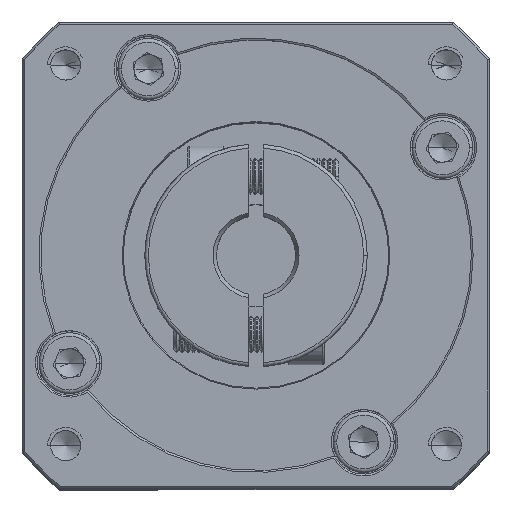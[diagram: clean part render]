
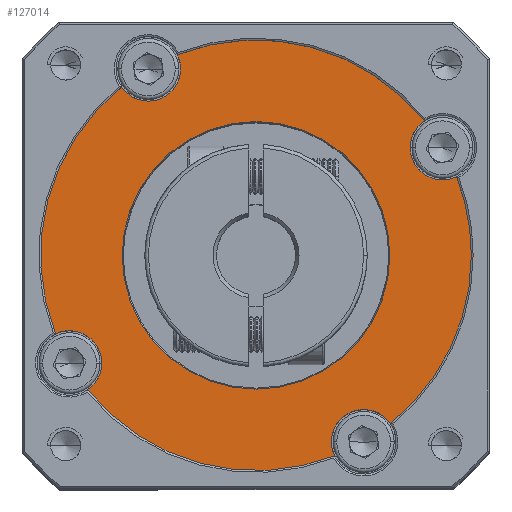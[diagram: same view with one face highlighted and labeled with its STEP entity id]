
A CAD part, top view. The second image highlights one B-rep face of the part: STEP entity #127014.
In plain terms, the highlighted planar face has unit normal (0, 0, 1).
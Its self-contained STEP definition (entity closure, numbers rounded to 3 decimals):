
#341 = CARTESIAN_POINT ( 'NONE',  ( -14.902, 49.125, -0.205 ) ) ;
#1380 = ORIENTED_EDGE ( 'NONE', *, *, #78423, .F. ) ;
#1587 = DIRECTION ( 'NONE',  ( 0., 0., 1. ) ) ;
#7271 = VERTEX_POINT ( 'NONE', #14656 ) ;
#9021 = FACE_OUTER_BOUND ( 'NONE', #102131, .T. ) ;
#9184 = CIRCLE ( 'NONE', #19543, 4.5 ) ;
#9976 = DIRECTION ( 'NONE',  ( 0., 0., 1. ) ) ;
#12497 = VERTEX_POINT ( 'NONE', #121655 ) ;
#13018 = DIRECTION ( 'NONE',  ( 1., 0., 0. ) ) ;
#13672 = CARTESIAN_POINT ( 'NONE',  ( -16.853, 53.18, -0.205 ) ) ;
#14656 = CARTESIAN_POINT ( 'NONE',  ( -66.279, 19.463, -0.205 ) ) ;
#17426 = CIRCLE ( 'NONE', #92879, 4.5 ) ;
#18301 = DIRECTION ( 'NONE',  ( 0., 0., 1. ) ) ;
#19187 = ORIENTED_EDGE ( 'NONE', *, *, #113831, .T. ) ;
#19543 = AXIS2_PLACEMENT_3D ( 'NONE', #102725, #83114, #123195 ) ;
#21411 = CIRCLE ( 'NONE', #58068, 30. ) ;
#22514 = DIRECTION ( 'NONE',  ( 0., 0., 1. ) ) ;
#27155 = AXIS2_PLACEMENT_3D ( 'NONE', #41670, #32229, #121193 ) ;
#29551 = DIRECTION ( 'NONE',  ( 0., 0., 1. ) ) ;
#32229 = DIRECTION ( 'NONE',  ( 0., 0., -1. ) ) ;
#32404 = ORIENTED_EDGE ( 'NONE', *, *, #78745, .F. ) ;
#32940 = EDGE_CURVE ( 'NONE', #116980, #82285, #89601, .T. ) ;
#33663 = DIRECTION ( 'NONE',  ( 0., 0., -1. ) ) ;
#34993 = CARTESIAN_POINT ( 'NONE',  ( -19.389, 56.898, -0.205 ) ) ;
#35040 = CARTESIAN_POINT ( 'NONE',  ( -31.889, 10.248, -0.205 ) ) ;
#36228 = CIRCLE ( 'NONE', #76223, 30. ) ;
#37296 = VERTEX_POINT ( 'NONE', #89811 ) ;
#39043 = AXIS2_PLACEMENT_3D ( 'NONE', #13672, #82229, #92050 ) ;
#39113 = VERTEX_POINT ( 'NONE', #35040 ) ;
#39818 = CARTESIAN_POINT ( 'NONE',  ( -57.834, 64.161, -0.205 ) ) ;
#40380 = ORIENTED_EDGE ( 'NONE', *, *, #117300, .T. ) ;
#40464 = EDGE_CURVE ( 'NONE', #82285, #116980, #91825, .T. ) ;
#41670 = CARTESIAN_POINT ( 'NONE',  ( -42.834, 38.18, -0.205 ) ) ;
#42096 = AXIS2_PLACEMENT_3D ( 'NONE', #61697, #80957, #51405 ) ;
#42295 = CARTESIAN_POINT ( 'NONE',  ( -32.334, 12.2, -0.205 ) ) ;
#42593 = CARTESIAN_POINT ( 'NONE',  ( -27.834, 12.2, -0.205 ) ) ;
#43863 = CIRCLE ( 'NONE', #39043, 4.5 ) ;
#44884 = DIRECTION ( 'NONE',  ( 0., 0., 1. ) ) ;
#45275 = VERTEX_POINT ( 'NONE', #53003 ) ;
#45635 = EDGE_CURVE ( 'NONE', #70195, #12497, #99073, .T. ) ;
#45718 = AXIS2_PLACEMENT_3D ( 'NONE', #113342, #44884, #63737 ) ;
#46668 = CARTESIAN_POINT ( 'NONE',  ( -42.834, 38.18, -0.205 ) ) ;
#46819 = CARTESIAN_POINT ( 'NONE',  ( -68.815, 23.18, -0.205 ) ) ;
#47213 = VERTEX_POINT ( 'NONE', #341 ) ;
#47482 = CARTESIAN_POINT ( 'NONE',  ( -42.834, 38.18, -0.205 ) ) ;
#49509 = ORIENTED_EDGE ( 'NONE', *, *, #62680, .F. ) ;
#50099 = AXIS2_PLACEMENT_3D ( 'NONE', #42593, #120018, #13018 ) ;
#51405 = DIRECTION ( 'NONE',  ( 1., 0., 0. ) ) ;
#53003 = CARTESIAN_POINT ( 'NONE',  ( -70.766, 27.235, -0.205 ) ) ;
#54079 = CARTESIAN_POINT ( 'NONE',  ( -42.834, 38.18, -0.205 ) ) ;
#54506 = VERTEX_POINT ( 'NONE', #71019 ) ;
#55982 = ORIENTED_EDGE ( 'NONE', *, *, #90287, .F. ) ;
#58068 = AXIS2_PLACEMENT_3D ( 'NONE', #54079, #29551, #71918 ) ;
#58335 = CARTESIAN_POINT ( 'NONE',  ( -61.478, 38.18, -0.205 ) ) ;
#60817 = CIRCLE ( 'NONE', #80931, 4.5 ) ;
#60831 = CARTESIAN_POINT ( 'NONE',  ( -24.19, 38.18, -0.205 ) ) ;
#61697 = CARTESIAN_POINT ( 'NONE',  ( -42.834, 38.18, -0.205 ) ) ;
#62346 = ORIENTED_EDGE ( 'NONE', *, *, #122113, .F. ) ;
#62680 = EDGE_CURVE ( 'NONE', #70195, #63928, #89608, .T. ) ;
#63737 = DIRECTION ( 'NONE',  ( 1., 0., 0. ) ) ;
#63928 = VERTEX_POINT ( 'NONE', #42295 ) ;
#65639 = VERTEX_POINT ( 'NONE', #70493 ) ;
#66314 = DIRECTION ( 'NONE',  ( 0., 0., 1. ) ) ;
#66614 = ORIENTED_EDGE ( 'NONE', *, *, #40464, .T. ) ;
#66890 = DIRECTION ( 'NONE',  ( 1., 0., 0. ) ) ;
#69766 = DIRECTION ( 'NONE',  ( 1., 0., 0. ) ) ;
#69815 = ORIENTED_EDGE ( 'NONE', *, *, #122901, .F. ) ;
#70195 = VERTEX_POINT ( 'NONE', #111981 ) ;
#70493 = CARTESIAN_POINT ( 'NONE',  ( -53.334, 64.161, -0.205 ) ) ;
#71019 = CARTESIAN_POINT ( 'NONE',  ( -21.353, 53.18, -0.205 ) ) ;
#71918 = DIRECTION ( 'NONE',  ( 1., 0., 0. ) ) ;
#76223 = AXIS2_PLACEMENT_3D ( 'NONE', #47482, #18301, #95393 ) ;
#78423 = EDGE_CURVE ( 'NONE', #65639, #108582, #60817, .T. ) ;
#78515 = AXIS2_PLACEMENT_3D ( 'NONE', #102651, #81338, #111232 ) ;
#78541 = DIRECTION ( 'NONE',  ( 1., 0., 0. ) ) ;
#78570 = ORIENTED_EDGE ( 'NONE', *, *, #95424, .T. ) ;
#78745 = EDGE_CURVE ( 'NONE', #54506, #47213, #43863, .T. ) ;
#80931 = AXIS2_PLACEMENT_3D ( 'NONE', #39818, #108296, #69766 ) ;
#80957 = DIRECTION ( 'NONE',  ( 0., 0., 1. ) ) ;
#81338 = DIRECTION ( 'NONE',  ( 0., 0., 1. ) ) ;
#82050 = DIRECTION ( 'NONE',  ( 1., 0., 0. ) ) ;
#82229 = DIRECTION ( 'NONE',  ( 0., 0., 1. ) ) ;
#82285 = VERTEX_POINT ( 'NONE', #58335 ) ;
#82582 = FACE_BOUND ( 'NONE', #98097, .T. ) ;
#82969 = EDGE_CURVE ( 'NONE', #7271, #104074, #114402, .T. ) ;
#83114 = DIRECTION ( 'NONE',  ( 0., 0., 1. ) ) ;
#84615 = DIRECTION ( 'NONE',  ( 1., 0., 0. ) ) ;
#86379 = AXIS2_PLACEMENT_3D ( 'NONE', #92328, #33663, #84615 ) ;
#87944 = ORIENTED_EDGE ( 'NONE', *, *, #101090, .T. ) ;
#88273 = EDGE_CURVE ( 'NONE', #105371, #54506, #17426, .T. ) ;
#88463 = AXIS2_PLACEMENT_3D ( 'NONE', #46819, #115252, #66890 ) ;
#89601 = CIRCLE ( 'NONE', #27155, 18.644 ) ;
#89608 = CIRCLE ( 'NONE', #50099, 4.5 ) ;
#89811 = CARTESIAN_POINT ( 'NONE',  ( -61.551, 61.625, -0.205 ) ) ;
#90287 = EDGE_CURVE ( 'NONE', #37296, #65639, #9184, .T. ) ;
#91825 = CIRCLE ( 'NONE', #86379, 18.644 ) ;
#92050 = DIRECTION ( 'NONE',  ( 1., 0., 0. ) ) ;
#92328 = CARTESIAN_POINT ( 'NONE',  ( -42.834, 38.18, -0.205 ) ) ;
#92879 = AXIS2_PLACEMENT_3D ( 'NONE', #107619, #9976, #78541 ) ;
#93520 = ORIENTED_EDGE ( 'NONE', *, *, #88273, .F. ) ;
#94541 = AXIS2_PLACEMENT_3D ( 'NONE', #117958, #1587, #98327 ) ;
#95393 = DIRECTION ( 'NONE',  ( 1., 0., 0. ) ) ;
#95424 = EDGE_CURVE ( 'NONE', #12497, #47213, #21411, .T. ) ;
#98097 = EDGE_LOOP ( 'NONE', ( #99515, #66614 ) ) ;
#98327 = DIRECTION ( 'NONE',  ( 1., 0., 0. ) ) ;
#98336 = ORIENTED_EDGE ( 'NONE', *, *, #82969, .F. ) ;
#99073 = CIRCLE ( 'NONE', #125488, 30. ) ;
#99515 = ORIENTED_EDGE ( 'NONE', *, *, #32940, .T. ) ;
#100177 = PLANE ( 'NONE',  #42096 ) ;
#101090 = EDGE_CURVE ( 'NONE', #37296, #45275, #103872, .T. ) ;
#102086 = CARTESIAN_POINT ( 'NONE',  ( -42.834, 38.18, -0.205 ) ) ;
#102131 = EDGE_LOOP ( 'NONE', ( #98336, #19187, #62346, #49509, #106068, #78570, #32404, #93520, #40380, #1380, #55982, #87944, #69815 ) ) ;
#102651 = CARTESIAN_POINT ( 'NONE',  ( -42.834, 38.18, -0.205 ) ) ;
#102725 = CARTESIAN_POINT ( 'NONE',  ( -57.834, 64.161, -0.205 ) ) ;
#103872 = CIRCLE ( 'NONE', #78515, 30. ) ;
#104005 = DIRECTION ( 'NONE',  ( 1., 0., 0. ) ) ;
#104074 = VERTEX_POINT ( 'NONE', #124002 ) ;
#105371 = VERTEX_POINT ( 'NONE', #34993 ) ;
#106068 = ORIENTED_EDGE ( 'NONE', *, *, #45635, .T. ) ;
#107619 = CARTESIAN_POINT ( 'NONE',  ( -16.853, 53.18, -0.205 ) ) ;
#108296 = DIRECTION ( 'NONE',  ( 0., 0., 1. ) ) ;
#108582 = VERTEX_POINT ( 'NONE', #122572 ) ;
#111232 = DIRECTION ( 'NONE',  ( 1., 0., 0. ) ) ;
#111857 = AXIS2_PLACEMENT_3D ( 'NONE', #46668, #66314, #104005 ) ;
#111981 = CARTESIAN_POINT ( 'NONE',  ( -24.117, 14.735, -0.205 ) ) ;
#113342 = CARTESIAN_POINT ( 'NONE',  ( -27.834, 12.2, -0.205 ) ) ;
#113831 = EDGE_CURVE ( 'NONE', #7271, #39113, #119427, .T. ) ;
#114402 = CIRCLE ( 'NONE', #94541, 4.5 ) ;
#114537 = CIRCLE ( 'NONE', #88463, 4.5 ) ;
#115252 = DIRECTION ( 'NONE',  ( 0., 0., 1. ) ) ;
#116980 = VERTEX_POINT ( 'NONE', #60831 ) ;
#117300 = EDGE_CURVE ( 'NONE', #105371, #108582, #36228, .T. ) ;
#117958 = CARTESIAN_POINT ( 'NONE',  ( -68.815, 23.18, -0.205 ) ) ;
#119427 = CIRCLE ( 'NONE', #111857, 30. ) ;
#120018 = DIRECTION ( 'NONE',  ( 0., 0., 1. ) ) ;
#121193 = DIRECTION ( 'NONE',  ( 1., 0., 0. ) ) ;
#121655 = CARTESIAN_POINT ( 'NONE',  ( -12.834, 38.18, -0.205 ) ) ;
#122113 = EDGE_CURVE ( 'NONE', #63928, #39113, #122292, .T. ) ;
#122292 = CIRCLE ( 'NONE', #45718, 4.5 ) ;
#122572 = CARTESIAN_POINT ( 'NONE',  ( -53.779, 66.112, -0.205 ) ) ;
#122901 = EDGE_CURVE ( 'NONE', #104074, #45275, #114537, .T. ) ;
#123195 = DIRECTION ( 'NONE',  ( 1., 0., 0. ) ) ;
#124002 = CARTESIAN_POINT ( 'NONE',  ( -64.315, 23.18, -0.205 ) ) ;
#125488 = AXIS2_PLACEMENT_3D ( 'NONE', #102086, #22514, #82050 ) ;
#127014 = ADVANCED_FACE ( 'NONE', ( #82582, #9021 ), #100177, .T. ) ;
